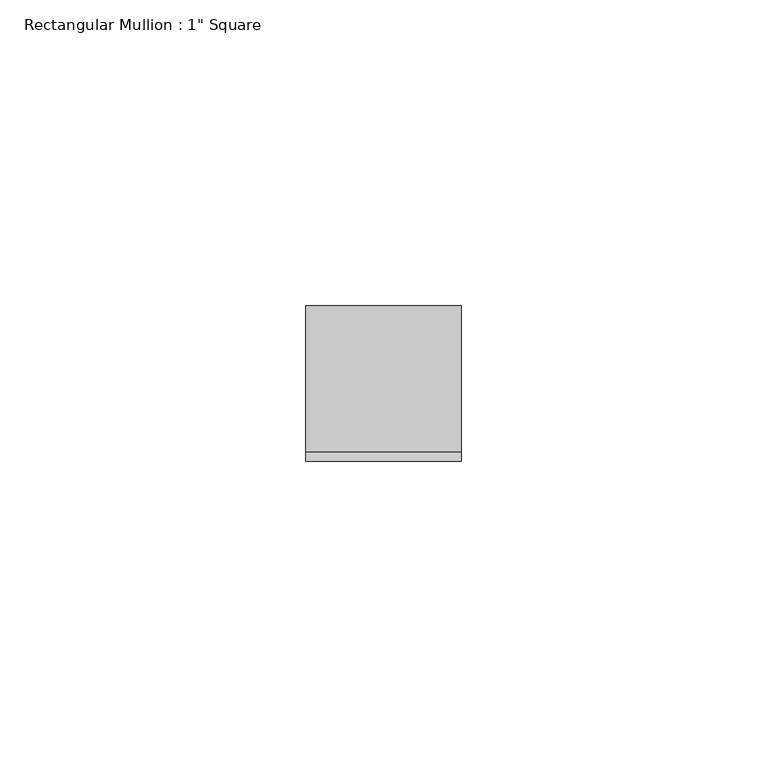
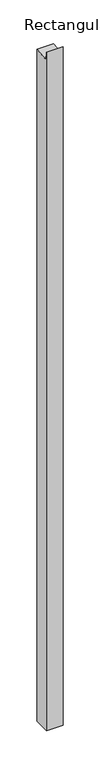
"""IFC4 building model written with IfcOpenShell, lengths in millimetres: member geometry."""

from ifc_helpers import new_model, si_unit, frame, origin, place, context, project, spatial, polyline, outline, extrude, source, transform, mapped, element, save


def member_a1b02127(model_context):
    return source(origin(), model_context, "Body", "SweptSolid", [
        extrude(outline(polyline([(-12.7, 11.9904052), (-11.2061787, -1.3357244), (12.7, 1.3440904), (12.7, -1100.6062819), (-12.7, -1100.6062819), (-12.7, 11.9904052)])), frame((-25.4, 0.0, 0.0), z_axis=(1.0, 0.0, 0.0), x_axis=(0.0, 1.0, 0.0)), (0.0, 0.0, 1.0), 25.4),
    ])


if __name__ == "__main__":
    model = new_model("IFC4")
    model_context = context("Model", 3, world=origin())
    ifc_project = project(units=[si_unit("LENGTHUNIT", "METRE", prefix="MILLI")], contexts=[model_context])
    site = spatial("IfcSite", under=ifc_project)
    building = spatial("IfcBuilding", under=site)
    placement = place(None, origin())
    member_shape = member_a1b02127(model_context)
    element("IfcMember", 1, ObjectType="Rectangular Mullion : 1\" Square", at=placement, inside=building, context=model_context, shape_type="MappedRepresentation", body=[
        mapped(member_shape, transform((0.0, 0.0, 0.0), x_axis=(1.0, 0.0, 0.0), y_axis=(0.0, 1.0, 0.0), z_axis=(0.0, 0.0, 1.0))),
    ])
    save(model, "model.ifc")
